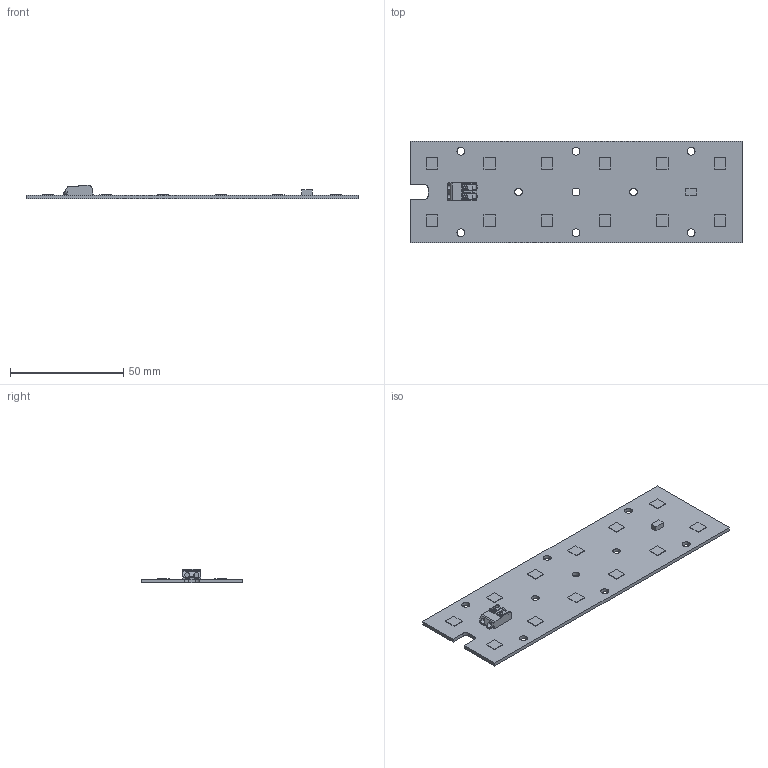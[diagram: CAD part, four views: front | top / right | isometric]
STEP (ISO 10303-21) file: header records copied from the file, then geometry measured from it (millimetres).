
FILE_DESCRIPTION(('Open CASCADE Model'),'2;1');
FILE_NAME('Open CASCADE Shape Model','2025-11-18T13:26:00',('Author'),( 'Open CASCADE'),'Open CASCADE STEP processor 7.5','Open CASCADE 7.5' ,'Unknown');
FILE_SCHEMA(('AUTOMOTIVE_DESIGN { 1 0 10303 214 1 1 1 1 }'));
Length unit declared in the file: millimetre
Products named in the file (24): PCB; Board; Open CASCADE STEP translator 7.5 3.1.1; TVS; 6591467776; Extruded; LED12; 7274493776; LED11; LED10; LED9; LED8; 7274493296; LED7; LED6; LED5; LED4; LED3; LED2; LED1; J1; 2060-452_998-404
Assembly tree (33 placements, depth 4):
  PCB
    Board
      Open CASCADE STEP translator 7.5 3.1.1
    TVS
      6591467776
        Extruded
    LED12
      7274493776
        Extruded
    LED11
      7274493776
        Extruded
    LED10
      7274493776
        Extruded
    LED9
      7274493776
        Extruded
    LED8
      7274493296
        Extruded
    LED7
      7274493296
        Extruded
    LED6
      7274493296
        Extruded
    LED5
      7274493296
        Extruded
    LED4
      7274493296
        Extruded
    LED3
      7274493296
        Extruded
    LED2
      7274493776
        Extruded
    LED1
      7274493776
        Extruded
    J1
      2060-452_998-404
Bounding box: 146.6 x 45 x 5.95 mm (x, y, z)
Volume: 10735.4 mm3; surface area: 15035.1 mm2
Topology: 15 solids, 15 shells, 294 faces, 776 edges, 516 vertices
Faces by surface type: plane 229, cylinder 63, sphere 2
Full cylindrical faces by diameter (mm): 2.25 x2, 3.4 x2, 3.5 x7
Entity records: 9085 total; most frequent: CARTESIAN_POINT 1389, DIRECTION 1266, ORIENTED_EDGE 1248, EDGE_CURVE 624, LINE 464, VECTOR 464, VERTEX_POINT 416, AXIS2_PLACEMENT_3D 401
